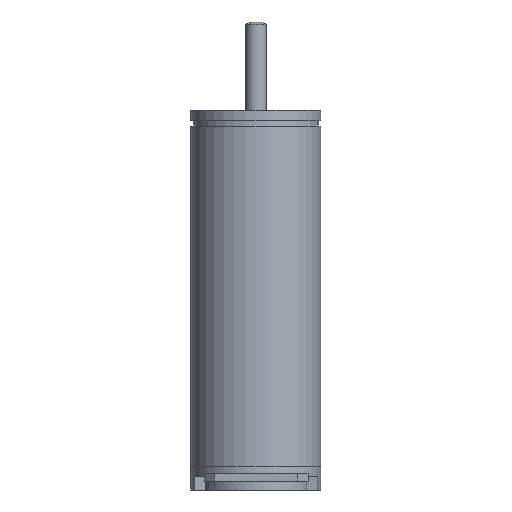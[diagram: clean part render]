
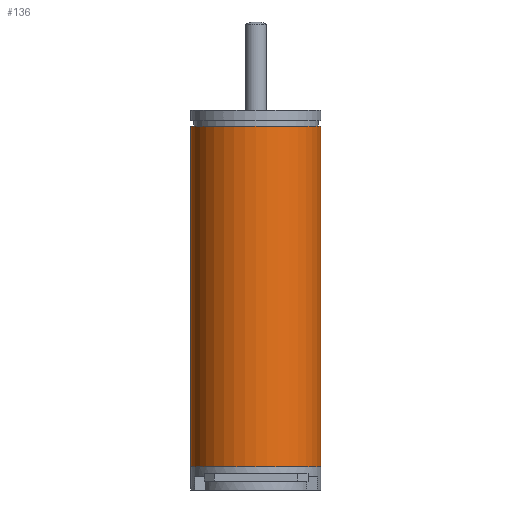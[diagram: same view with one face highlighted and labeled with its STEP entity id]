
A CAD part, front view. The second image highlights one B-rep face of the part: STEP entity #136.
In plain terms, the highlighted cylindrical face has radius 2.5 mm (diameter 5 mm), a full revolution.
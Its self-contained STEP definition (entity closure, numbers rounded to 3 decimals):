
#89=CYLINDRICAL_SURFACE('',#1295,2.5);
#104=FACE_BOUND('',#316,.T.);
#105=FACE_BOUND('',#317,.T.);
#136=ADVANCED_FACE('',(#104,#105),#89,.T.);
#316=EDGE_LOOP('',(#452));
#317=EDGE_LOOP('',(#453));
#407=CIRCLE('',#1293,2.5);
#408=CIRCLE('',#1294,2.5);
#452=ORIENTED_EDGE('',*,*,#906,.T.);
#453=ORIENTED_EDGE('',*,*,#907,.F.);
#786=VERTEX_POINT('',#1729);
#787=VERTEX_POINT('',#1731);
#906=EDGE_CURVE('',#786,#786,#407,.T.);
#907=EDGE_CURVE('',#787,#787,#408,.T.);
#1293=AXIS2_PLACEMENT_3D('',#1728,#1415,#1416);
#1294=AXIS2_PLACEMENT_3D('',#1730,#1417,#1418);
#1295=AXIS2_PLACEMENT_3D('',#1732,#1419,#1420);
#1415=DIRECTION('',(0.,0.,-1.));
#1416=DIRECTION('',(-1.,0.,0.));
#1417=DIRECTION('',(0.,0.,-1.));
#1418=DIRECTION('',(-1.,0.,0.));
#1419=DIRECTION('',(0.,0.,-1.));
#1420=DIRECTION('',(-1.,0.,0.));
#1728=CARTESIAN_POINT('',(0.,0.,-0.6));
#1729=CARTESIAN_POINT('',(-2.5,0.,-0.6));
#1730=CARTESIAN_POINT('',(0.,0.,-13.7));
#1731=CARTESIAN_POINT('',(-2.5,0.,-13.7));
#1732=CARTESIAN_POINT('',(0.,0.,-0.6));
